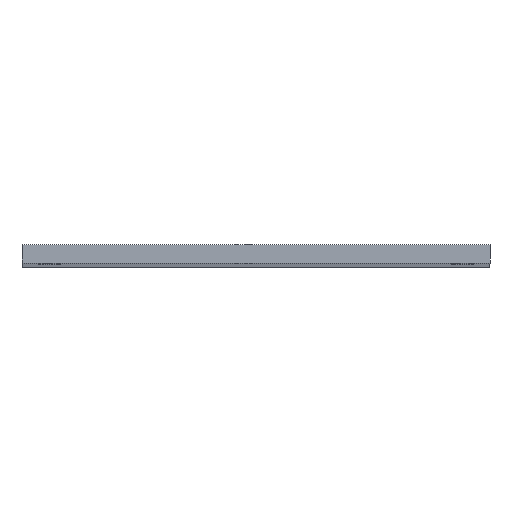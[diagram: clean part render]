
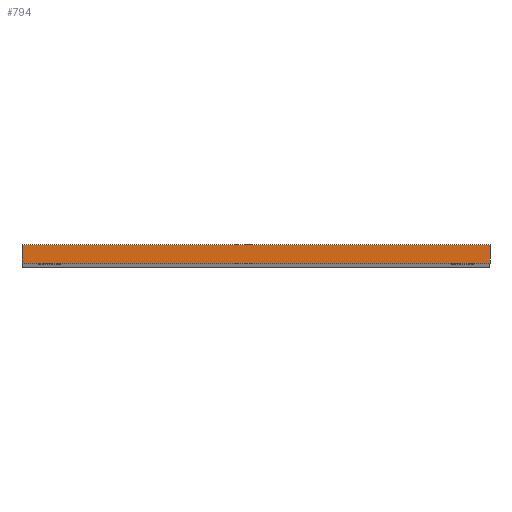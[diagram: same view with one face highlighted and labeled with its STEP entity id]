
A CAD part, top view. The second image highlights one B-rep face of the part: STEP entity #794.
In plain terms, the highlighted planar face has unit normal (0, 0, 1).
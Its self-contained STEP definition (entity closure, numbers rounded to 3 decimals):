
#15 = DIRECTION ( 'NONE',  ( 1., 0., 0. ) ) ;
#20 = CARTESIAN_POINT ( 'NONE',  ( 0., 1.8, 0. ) ) ;
#25 = CARTESIAN_POINT ( 'NONE',  ( 0., 1.8, 0. ) ) ;
#33 = VECTOR ( 'NONE', #387, 1000. ) ;
#84 = DIRECTION ( 'NONE',  ( 0., -1., 0. ) ) ;
#124 = VECTOR ( 'NONE', #689, 1000. ) ;
#205 = LINE ( 'NONE', #749, #124 ) ;
#209 = VECTOR ( 'NONE', #15, 1000. ) ;
#210 = CARTESIAN_POINT ( 'NONE',  ( 0., 0., 0. ) ) ;
#213 = DIRECTION ( 'NONE',  ( -1., 0., 0. ) ) ;
#259 = VERTEX_POINT ( 'NONE', #561 ) ;
#271 = VECTOR ( 'NONE', #84, 1000. ) ;
#276 = EDGE_CURVE ( 'NONE', #468, #259, #378, .T. ) ;
#332 = CARTESIAN_POINT ( 'NONE',  ( 0., 1.8, 0. ) ) ;
#334 = CARTESIAN_POINT ( 'NONE',  ( 46.6, 1.8, 0. ) ) ;
#338 = LINE ( 'NONE', #25, #271 ) ;
#378 = LINE ( 'NONE', #383, #33 ) ;
#382 = ORIENTED_EDGE ( 'NONE', *, *, #459, .T. ) ;
#383 = CARTESIAN_POINT ( 'NONE',  ( 0., 0., 0. ) ) ;
#387 = DIRECTION ( 'NONE',  ( 1., 0., 0. ) ) ;
#395 = ORIENTED_EDGE ( 'NONE', *, *, #765, .F. ) ;
#399 = EDGE_CURVE ( 'NONE', #424, #259, #205, .T. ) ;
#409 = CARTESIAN_POINT ( 'NONE',  ( 0., 1.8, 0. ) ) ;
#424 = VERTEX_POINT ( 'NONE', #334 ) ;
#449 = PLANE ( 'NONE',  #455 ) ;
#455 = AXIS2_PLACEMENT_3D ( 'NONE', #20, #759, #213 ) ;
#459 = EDGE_CURVE ( 'NONE', #558, #468, #338, .T. ) ;
#468 = VERTEX_POINT ( 'NONE', #210 ) ;
#473 = EDGE_LOOP ( 'NONE', ( #734, #752, #395, #382 ) ) ;
#558 = VERTEX_POINT ( 'NONE', #409 ) ;
#561 = CARTESIAN_POINT ( 'NONE',  ( 46.6, 0., 0. ) ) ;
#689 = DIRECTION ( 'NONE',  ( 0., -1., 0. ) ) ;
#694 = FACE_OUTER_BOUND ( 'NONE', #473, .T. ) ;
#734 = ORIENTED_EDGE ( 'NONE', *, *, #276, .T. ) ;
#743 = LINE ( 'NONE', #332, #209 ) ;
#749 = CARTESIAN_POINT ( 'NONE',  ( 46.6, 1.8, 0. ) ) ;
#752 = ORIENTED_EDGE ( 'NONE', *, *, #399, .F. ) ;
#759 = DIRECTION ( 'NONE',  ( 0., 0., -1. ) ) ;
#765 = EDGE_CURVE ( 'NONE', #558, #424, #743, .T. ) ;
#794 = ADVANCED_FACE ( 'NONE', ( #694 ), #449, .F. ) ;
